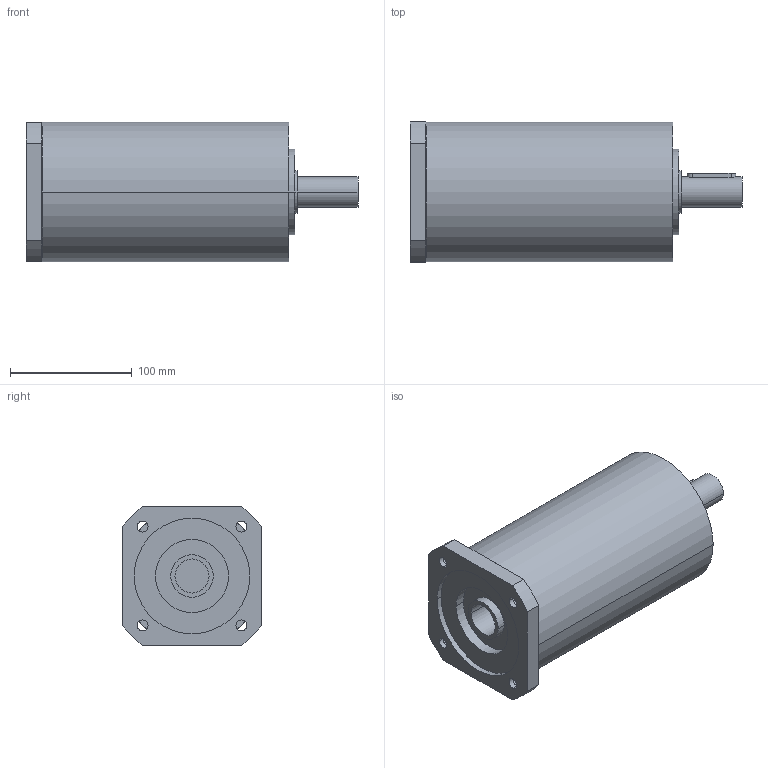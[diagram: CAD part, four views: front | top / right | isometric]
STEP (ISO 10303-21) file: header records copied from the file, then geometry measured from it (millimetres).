
FILE_DESCRIPTION(('CoCreate Modeling STEP Export'),'2;1');
FILE_NAME('GPR125_ig-48-64-80-100-140-196-245-343_25_B14_28_P06.stp','2014-08-26T14:22:47',(''),(''),'CoCreate Modeling STEP processor for AP214 (Solid Model)','CoCreate Modeling 16.00C 25-Feb-2009 (C) Parametric Technology GmbH','');
FILE_SCHEMA(('AUTOMOTIVE_DESIGN { 1 0 10303 214 1 1 1 1 }'));
Length unit declared in the file: millimetre
Products named in the file (2): GPR125_ig-48-64-80-100-140-196-245-343_25_B14_28_P06
Assembly tree (1 placements, depth 2):
  GPR125_ig-48-64-80-100-140-196-245-343_25_B14_28_P06
    GPR125_ig-48-64-80-100-140-196-245-343_25_B14_28_P06
Bounding box: 273 x 115 x 115 mm (x, y, z)
Volume: 2224061.2 mm3; surface area: 123404.6 mm2
Topology: 1 solids, 1 shells, 81 faces, 223 edges, 155 vertices
Faces by surface type: cylinder 48, plane 29, cone 4
Entity records: 2226 total; most frequent: ORIENTED_EDGE 442, CARTESIAN_POINT 408, DIRECTION 300, EDGE_CURVE 221, VERTEX_POINT 155, AXIS2_PLACEMENT_3D 115, EDGE_LOOP 102, FACE_OUTER_BOUND 81
